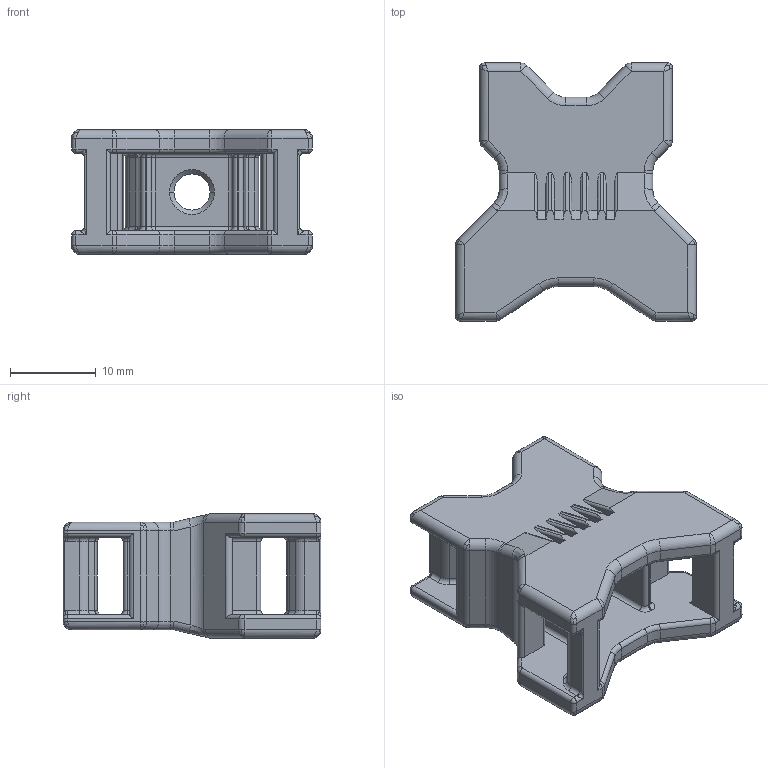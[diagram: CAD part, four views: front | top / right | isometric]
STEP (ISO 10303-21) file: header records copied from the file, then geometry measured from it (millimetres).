
FILE_DESCRIPTION(('Creo Elements/Direct Modeling STEP Export'),'2;1');
FILE_NAME('20130821_OL-F4-30.stp','2013-09-19T11:55:16',(''),(''),'Creo Elements/Direct Modeling STEP processor for AP214 (Solid Model)','Creo Elements/Direct Modeling 18.1B 29-Sep-2012 (C) Parametric Technology GmbH','');
FILE_SCHEMA(('AUTOMOTIVE_DESIGN { 1 0 10303 214 1 1 1 1 }'));
Length unit declared in the file: millimetre
Products named in the file (2): OL-F4-30
Assembly tree (1 placements, depth 2):
  OL-F4-30
    OL-F4-30
Bounding box: 28 x 30 x 14.5 mm (x, y, z)
Volume: 4236.1 mm3; surface area: 4316.4 mm2
Topology: 1 solids, 1 shells, 482 faces, 1220 edges, 695 vertices
Faces by surface type: cylinder 220, plane 110, bspline 71, torus 50, sphere 27, cone 4
Entity records: 21037 total; most frequent: CARTESIAN_POINT 10231, ORIENTED_EDGE 2370, DIRECTION 2158, EDGE_CURVE 1185, AXIS2_PLACEMENT_3D 803, VERTEX_POINT 695, VECTOR 552, LINE 552
